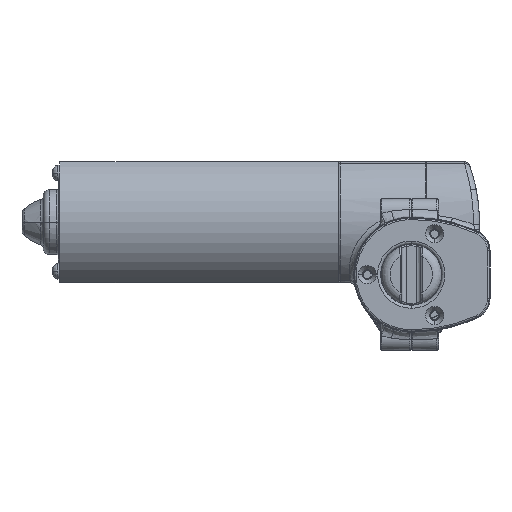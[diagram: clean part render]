
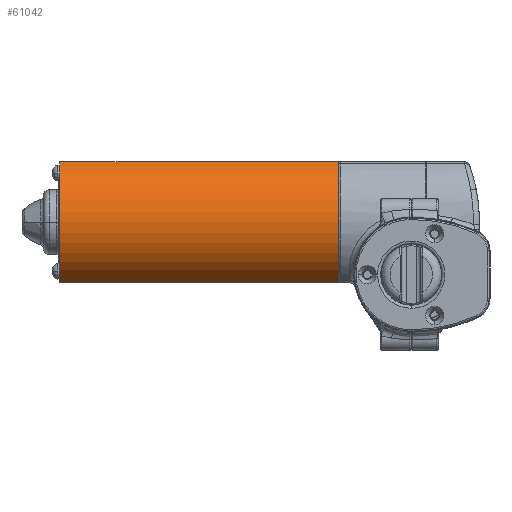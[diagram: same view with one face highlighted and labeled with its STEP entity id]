
A CAD part, left-side view. The second image highlights one B-rep face of the part: STEP entity #61042.
In plain terms, the highlighted cylindrical face has radius 22.5 mm (diameter 45 mm), a partial arc.
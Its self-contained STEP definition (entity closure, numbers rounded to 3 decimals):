
#59082=CARTESIAN_POINT('',(0.,0.,0.));
#59083=DIRECTION('',(0.,1.,0.));
#59084=DIRECTION('',(-0.458,0.,-0.889));
#59085=AXIS2_PLACEMENT_3D('',#59082,#59083,#59084);
#59087=CARTESIAN_POINT('',(0.,0.,0.));
#59088=DIRECTION('',(0.,1.,0.));
#59089=DIRECTION('',(-1.,0.,0.));
#59090=AXIS2_PLACEMENT_3D('',#59087,#59088,#59089);
#59437=DIRECTION('',(0.,1.,0.));
#59438=VECTOR('',#59437,92.);
#59439=CARTESIAN_POINT('',(-10.308,0.,-20.));
#59440=LINE('',#59439,#59438);
#59441=DIRECTION('',(0.,-1.,0.));
#59442=VECTOR('',#59441,92.);
#59443=CARTESIAN_POINT('',(-10.308,92.,20.));
#59444=LINE('',#59443,#59442);
#59449=CARTESIAN_POINT('',(0.,92.,0.));
#59450=DIRECTION('',(0.,-1.,0.));
#59451=DIRECTION('',(-0.458,0.,0.889));
#59452=AXIS2_PLACEMENT_3D('',#59449,#59450,#59451);
#59454=CARTESIAN_POINT('',(0.,92.,0.));
#59455=DIRECTION('',(0.,-1.,0.));
#59456=DIRECTION('',(-1.,0.,0.));
#59457=AXIS2_PLACEMENT_3D('',#59454,#59455,#59456);
#60287=CARTESIAN_POINT('',(-10.308,0.,-20.));
#60288=VERTEX_POINT('',#60287);
#60289=CARTESIAN_POINT('',(-22.5,0.,0.));
#60290=VERTEX_POINT('',#60289);
#60291=CARTESIAN_POINT('',(-10.308,0.,20.));
#60292=VERTEX_POINT('',#60291);
#60475=CARTESIAN_POINT('',(-10.308,92.,-20.));
#60476=VERTEX_POINT('',#60475);
#60477=CARTESIAN_POINT('',(-22.5,92.,0.));
#60478=VERTEX_POINT('',#60477);
#60479=CARTESIAN_POINT('',(-10.308,92.,20.));
#60480=VERTEX_POINT('',#60479);
#61026=CARTESIAN_POINT('',(0.,-1.84,0.));
#61027=DIRECTION('',(0.,1.,0.));
#61028=DIRECTION('',(1.,0.,0.));
#61029=AXIS2_PLACEMENT_3D('',#61026,#61027,#61028);
#61030=CYLINDRICAL_SURFACE('',#61029,22.5);
#61031=ORIENTED_EDGE('',*,*,#60648,.F.);
#61032=ORIENTED_EDGE('',*,*,#60646,.F.);
#61034=ORIENTED_EDGE('',*,*,#61033,.T.);
#61036=ORIENTED_EDGE('',*,*,#61035,.F.);
#61038=ORIENTED_EDGE('',*,*,#61037,.F.);
#61039=ORIENTED_EDGE('',*,*,#61018,.T.);
#61040=EDGE_LOOP('',(#61031,#61032,#61034,#61036,#61038,#61039));
#61041=FACE_OUTER_BOUND('',#61040,.F.);
#61042=ADVANCED_FACE('',(#61041),#61030,.T.);
#59086=CIRCLE('',#59085,22.5);
#59091=CIRCLE('',#59090,22.5);
#59453=CIRCLE('',#59452,22.5);
#59458=CIRCLE('',#59457,22.5);
#60646=EDGE_CURVE('',#60288,#60290,#59086,.T.);
#60648=EDGE_CURVE('',#60290,#60292,#59091,.T.);
#61018=EDGE_CURVE('',#60480,#60292,#59444,.T.);
#61033=EDGE_CURVE('',#60288,#60476,#59440,.T.);
#61035=EDGE_CURVE('',#60478,#60476,#59458,.T.);
#61037=EDGE_CURVE('',#60480,#60478,#59453,.T.);
